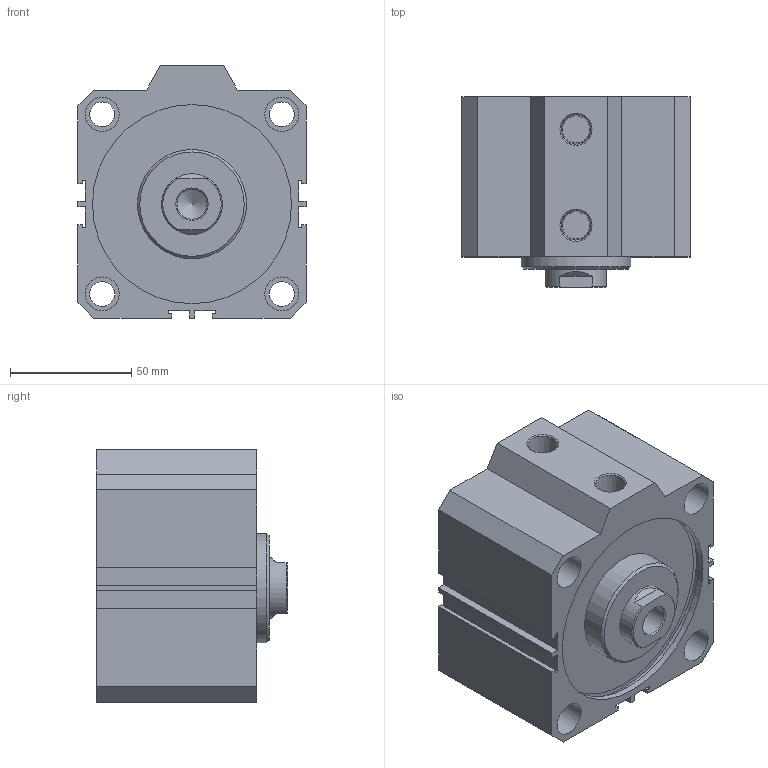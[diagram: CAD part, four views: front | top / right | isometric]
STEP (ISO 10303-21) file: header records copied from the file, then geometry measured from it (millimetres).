
FILE_DESCRIPTION(/* description */ ('Unknown'),/* implementation_level */ '2;1');
FILE_NAME(/* name */ 'WJ80-20',/* time_stamp */ '2026-07-17T16:17:57+08:00',/* author */ ('Unknown'),/* organization */ ('Unknown'),/* preprocessor_version */ 'ST-DEVELOPER v16.7',/* originating_system */ 'DEX',/* authorisation */ $);
FILE_SCHEMA (('CONFIG_CONTROL_DESIGN'));
Length unit declared in the file: millimetre
Products named in the file (5): WJ80-20; WJ80_本; WJ80_«enceRefs; WJ80_岃搵; WJ80_¤ß¶b¬¡ï
Assembly tree (4 placements, depth 2):
  WJ80-20
    WJ80_本
    WJ80_«enceRefs
    WJ80_岃搵
    WJ80_¤ß¶b¬¡ï
Bounding box: 94 x 78.5 x 104 mm (x, y, z)
Volume: 428501.7 mm3; surface area: 110546.1 mm2
Topology: 4 solids, 4 shells, 122 faces, 288 edges, 195 vertices
Faces by surface type: plane 81, cylinder 29, cone 12
Full cylindrical faces by diameter (mm): 10.2 x4, 11.2 x2, 12.376 x1, 14 x8, 25 x2, 45 x2, 79.5 x1, 80 x1, 82 x6, 85.5 x2
Entity records: 4033 total; most frequent: DIRECTION 554, CARTESIAN_POINT 546, ORIENTED_EDGE 460, EDGE_CURVE 230, AXIS2_PLACEMENT_3D 201, FACE_BOUND 195, EDGE_LOOP 194, VERTEX_POINT 177
